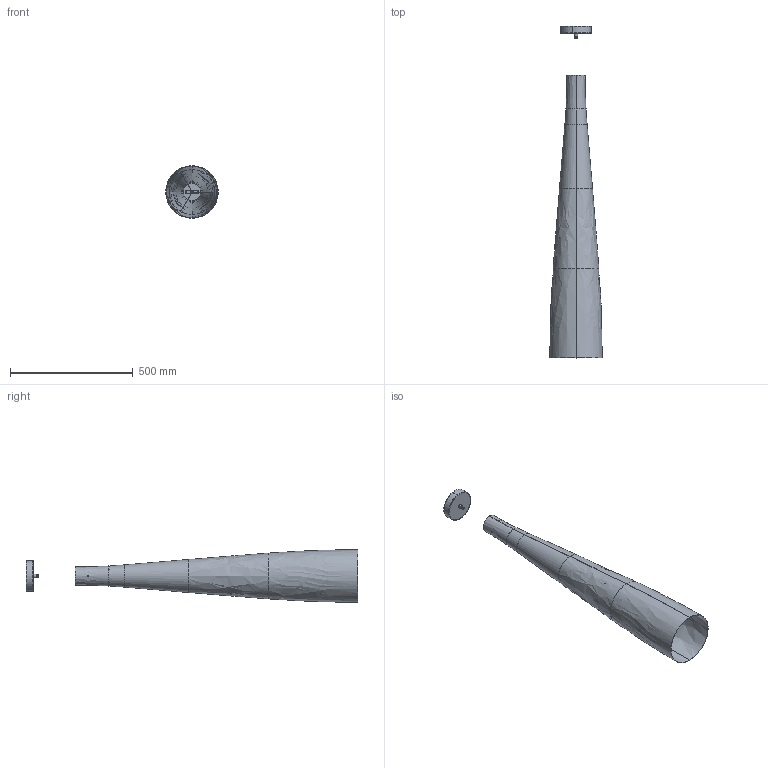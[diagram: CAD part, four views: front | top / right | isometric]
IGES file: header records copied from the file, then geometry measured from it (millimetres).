
Start section: SolidWorks IGES file using analytic representation for surfaces
Global section: file name: X:\stage\TITE 1\TITE 1.IGS; native system: SolidWorks 2006 by SolidWorks Corporation; preprocessor: SolidWorks 2006 by SolidWorks Corporation; author: stagetec; date: 060920.155901; units: millimetre
Bounding box: 213.8 x 1349.84 x 213.8 mm (x, y, z)
Volume: 556223.3 mm3; surface area: 1194269.7 mm2
Topology: 7 solids, 7 shells, 255 faces, 650 edges, 414 vertices
Faces by surface type: revolution 171, plane 84
